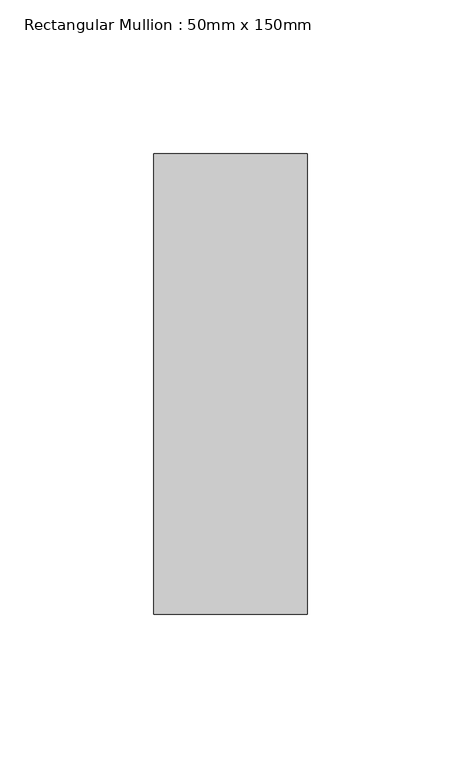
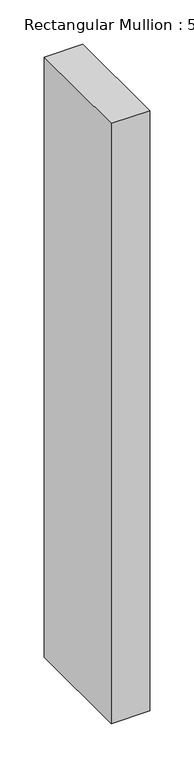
"""IFC4 building model written with IfcOpenShell, lengths in millimetres: member geometry, Rectangular Mullion : 50mm x 150mm."""

from ifc_helpers import new_model, si_unit, frame, origin, place, context, project, spatial, polyline, outline, extrude, source, transform, mapped, element, save


def rectangular_mullion_50mm_x_150mm_d48598d6(model_context):
    return source(origin(), model_context, "Body", "SweptSolid", [
        extrude(outline(polyline([(0.0, 75.0), (0.0, -75.0), (-50.0, -75.0), (-50.0, 75.0), (0.0, 75.0)])), frame((0.0, 0.0, -824.5150656), z_axis=(0.0, 0.0, 1.0), x_axis=(1.0, 0.0, 0.0)), (0.0, 0.0, 1.0), 824.5150656),
    ])


if __name__ == "__main__":
    model = new_model("IFC4")
    model_context = context("Model", 3, world=origin())
    ifc_project = project(units=[si_unit("LENGTHUNIT", "METRE", prefix="MILLI")], contexts=[model_context])
    site = spatial("IfcSite", under=ifc_project)
    building = spatial("IfcBuilding", under=site)
    placement = place(None, origin())
    rectangular_mullion_50mm_x_150mm_shape = rectangular_mullion_50mm_x_150mm_d48598d6(model_context)
    element("IfcMember", 1, ObjectType="Rectangular Mullion : 50mm x 150mm", at=placement, inside=building, context=model_context, shape_type="MappedRepresentation", body=[
        mapped(rectangular_mullion_50mm_x_150mm_shape, transform((0.0, 0.0, 0.0), x_axis=(1.0, 0.0, 0.0), y_axis=(0.0, 1.0, 0.0), z_axis=(0.0, 0.0, 1.0))),
    ])
    save(model, "model.ifc")
